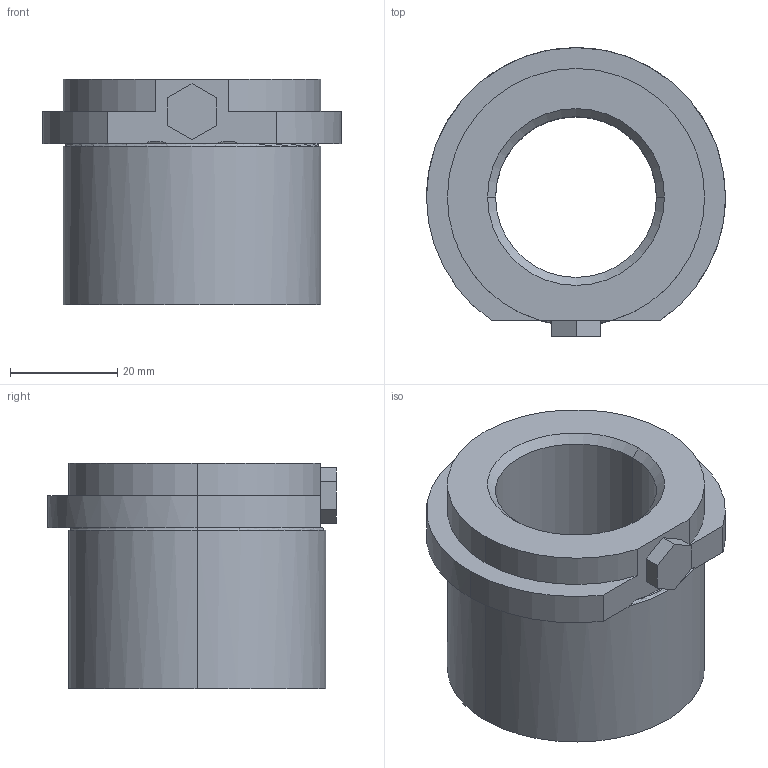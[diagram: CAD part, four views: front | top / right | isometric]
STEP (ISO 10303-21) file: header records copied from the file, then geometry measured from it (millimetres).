
FILE_DESCRIPTION(('CATIA V5 STEP Exchange'),'2;1');
FILE_NAME('C:\Users\Utente\Desktop\IO LAVORO\3D X SITO CF\X SITO\740\740-30.stp','2021-01-18T19:37:06+00:00',('none'),('none'),'CATIA Version 5 Release 20 GA (IN-10)','CATIA V5 STEP AP203','none');
FILE_SCHEMA(('CONFIG_CONTROL_DESIGN'));
Length unit declared in the file: millimetre
Products named in the file (1): 740-30
Assembly tree (1 placements, depth 2):
  740-30
    #58
Bounding box: 55.8 x 53.9 x 42 mm (x, y, z)
Volume: 49067.7 mm3; surface area: 13969 mm2
Topology: 1 solids, 1 shells, 35 faces, 87 edges, 56 vertices
Faces by surface type: plane 14, cylinder 12, torus 5, cone 4
Entity records: 1301 total; most frequent: CARTESIAN_POINT 444, ORIENTED_EDGE 174, DIRECTION 139, EDGE_CURVE 87, AXIS2_PLACEMENT_3D 63, VERTEX_POINT 56, VECTOR 42, LINE 42
